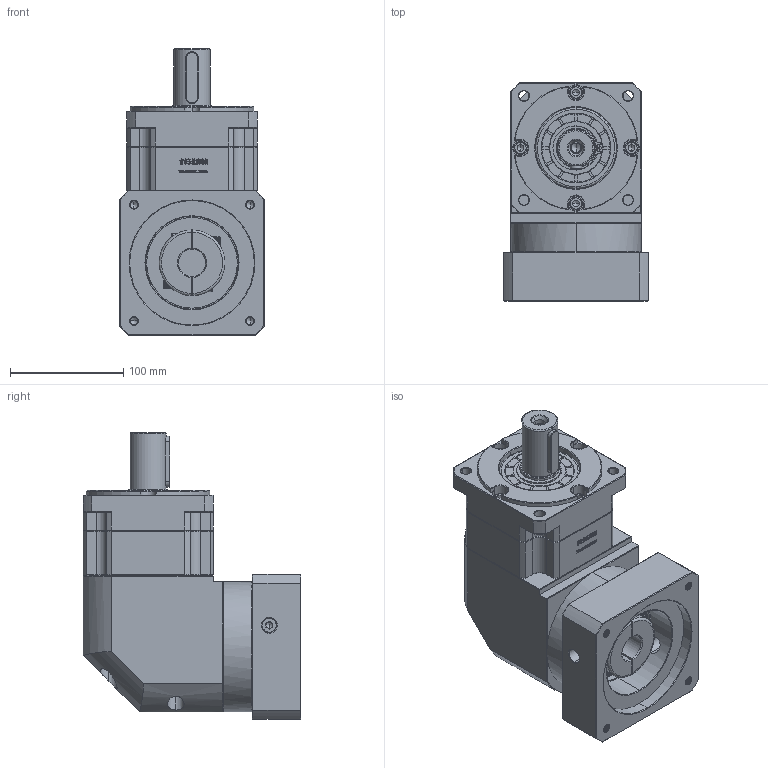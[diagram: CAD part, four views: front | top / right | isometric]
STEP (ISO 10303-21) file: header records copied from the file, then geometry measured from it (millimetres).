
FILE_DESCRIPTION (( 'STEP AP214' ), '1' );
FILE_NAME ('ZBR115A-D32-L1-24-110-145-M8.step', '2023-03-03T05:00:46', ( '' ), ( 'Microsoft' ), 'SwSTEP 2.0', 'SolidWorks 2016', '' );
FILE_SCHEMA (( 'AUTOMOTIVE_DESIGN' ));
Length unit declared in the file: millimetre
Products named in the file (1): ZBR115A-D32-L1-24-110-145-M8
Bounding box: 128 x 192.4 x 253 mm (x, y, z)
Volume: 3054879.5 mm3; surface area: 255199.4 mm2
Topology: 6 solids, 6 shells, 2982 faces, 7921 edges, 5085 vertices
Faces by surface type: plane 1559, bspline 606, cylinder 439, cone 370, torus 8
Entity records: 162096 total; most frequent: CARTESIAN_POINT 60060, ORIENTED_EDGE 15782, DIRECTION 11954, EDGE_CURVE 7891, LINE 5308, VECTOR 5308, VERTEX_POINT 5085, AXIS2_PLACEMENT_3D 3323
